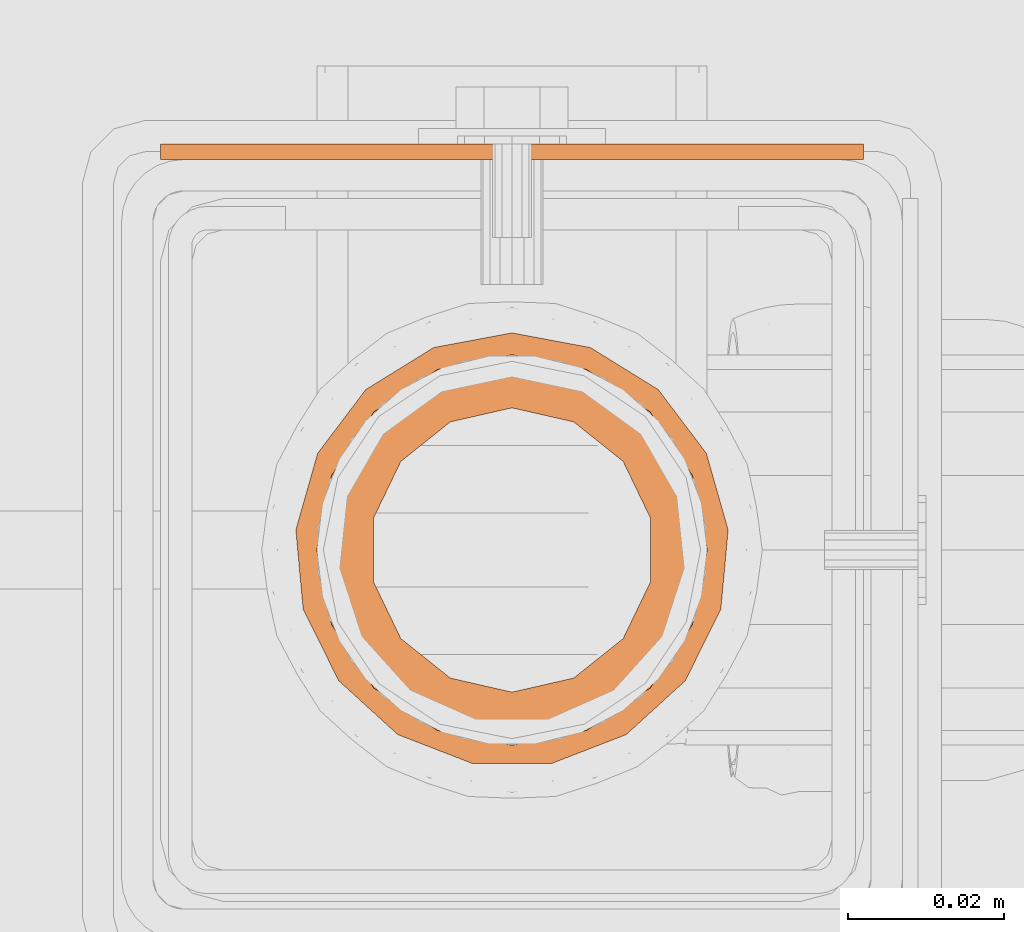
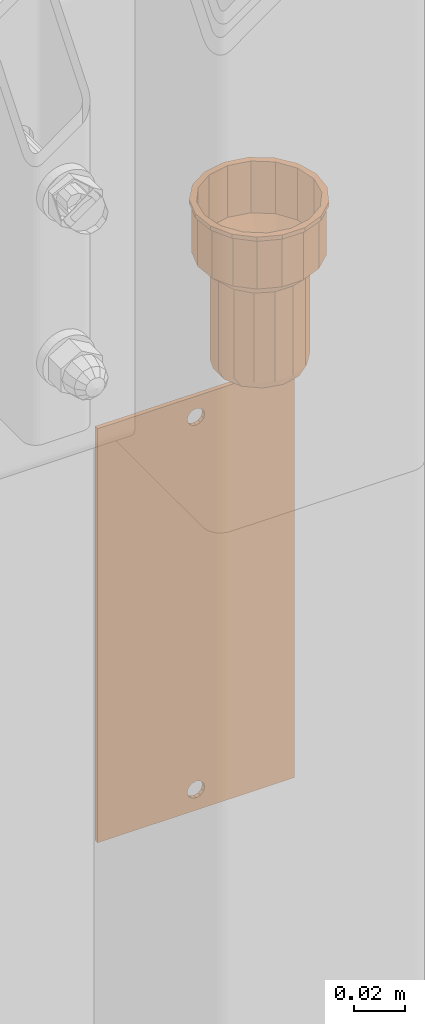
# One storey, part 83 of 162: 2 proxies.
"""IFC2X3 building model written with IfcOpenShell, lengths in millimetres."""

from ifc_helpers import new_model, entity, si_unit, converted_unit, origin_with_axes, place, context, project, spatial, faceted_brep, material, element, save


model = new_model("IFC2X3")

# Units and contexts
model_context = context("Model", 3, precision=1e-09, world=origin_with_axes())
ifc_project = project(units=[si_unit("LENGTHUNIT", "METRE", prefix="MILLI"), si_unit("AREAUNIT", "SQUARE_METRE"), si_unit("VOLUMEUNIT", "CUBIC_METRE"), converted_unit("PLANEANGLEUNIT", "DEGREE", entity("IfcPlaneAngleMeasure", 0.01745329), si_unit("PLANEANGLEUNIT", "RADIAN"), dimensions=[0, 0, 0, 0, 0, 0, 0])], contexts=[model_context])

# Site, building, storey
site_placement = place(None, origin_with_axes())
site = spatial("IfcSite", under=ifc_project, at=site_placement, Name="Hermannstra?e 1a, 60318 Frankfurt", CompositionType="ELEMENT")
building_placement = place(site_placement, origin_with_axes())
building = spatial("IfcBuilding", under=site, at=building_placement, Name="Struktur 1", CompositionType="ELEMENT")
storey_placement = place(building_placement, origin_with_axes())
storey = spatial("IfcBuildingStorey", under=building, at=storey_placement, Name="Default Storey", CompositionType="ELEMENT", Elevation=0.0)

# Proxies
ifc_material_1 = material(Name="Kein")
proxy_1_placement = place(None, origin_with_axes())
element("IfcBuildingElementProxy", 1, at=proxy_1_placement, inside=storey, material=ifc_material_1, ObjectType="-", context=model_context, shape_type="Brep", body=[
    faceted_brep([(5469.30836482, 1582.609373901, 7340.0), (5469.30836482, 1580.609373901, 7340.0), (5469.844397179, 1580.609373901, 7337.9995), (5469.844397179, 1582.609373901, 7337.9995), (5471.30886482, 1580.609373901, 7336.535032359), (5471.30886482, 1582.609373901, 7336.535032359), (5469.844397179, 1582.609373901, 7342.0005), (5469.844397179, 1580.609373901, 7342.0005), (5471.30886482, 1582.609373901, 7343.464967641), (5471.30886482, 1580.609373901, 7343.464967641), (5428.30936482, 1580.609373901, 7530.0), (5428.30936482, 1580.609373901, 7330.0), (5518.30936482, 1580.609373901, 7330.0), (5518.30936482, 1580.609373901, 7530.0), (5471.30886482, 1580.609373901, 7516.535032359), (5469.844397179, 1580.609373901, 7517.9995), (5469.30836482, 1580.609373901, 7520.0), (5469.844397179, 1580.609373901, 7522.0005), (5471.30886482, 1580.609373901, 7523.464967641), (5473.30936482, 1580.609373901, 7524.001), (5475.30986482, 1580.609373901, 7523.464967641), (5476.77433246, 1580.609373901, 7522.0005), (5477.31036482, 1580.609373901, 7520.0), (5476.77433246, 1580.609373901, 7517.9995), (5475.30986482, 1580.609373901, 7516.535032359), (5473.30936482, 1580.609373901, 7515.999), (5473.30936482, 1580.609373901, 7344.001), (5475.30986482, 1580.609373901, 7343.464967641), (5476.77433246, 1580.609373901, 7342.0005), (5477.31036482, 1580.609373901, 7340.0), (5476.77433246, 1580.609373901, 7337.9995), (5475.30986482, 1580.609373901, 7336.535032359), (5473.30936482, 1580.609373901, 7335.999), (5469.844397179, 1582.609373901, 7517.9995), (5471.30886482, 1582.609373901, 7516.535032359), (5428.30936482, 1582.609373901, 7530.0), (5518.30936482, 1582.609373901, 7530.0), (5518.30936482, 1582.609373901, 7330.0), (5428.30936482, 1582.609373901, 7330.0), (5473.30936482, 1582.609373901, 7335.999), (5475.30986482, 1582.609373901, 7336.535032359), (5476.77433246, 1582.609373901, 7337.9995), (5477.31036482, 1582.609373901, 7340.0), (5476.77433246, 1582.609373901, 7342.0005), (5475.30986482, 1582.609373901, 7343.464967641), (5473.30936482, 1582.609373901, 7344.001), (5476.77433246, 1582.609373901, 7517.9995), (5477.31036482, 1582.609373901, 7520.0), (5476.77433246, 1582.609373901, 7522.0005), (5475.30986482, 1582.609373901, 7523.464967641), (5473.30936482, 1582.609373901, 7524.001), (5471.30886482, 1582.609373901, 7523.464967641), (5469.844397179, 1582.609373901, 7522.0005), (5469.30836482, 1582.609373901, 7520.0), (5473.30936482, 1582.609373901, 7515.999), (5475.30986482, 1582.609373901, 7516.535032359)], [[[0, 1, 2, 3]], [[3, 2, 4, 5]], [[1, 0, 6, 7]], [[7, 6, 8, 9]], [[10, 11, 12, 13], [14, 15, 16, 17, 18, 19, 20, 21, 22, 23, 24, 25], [1, 7, 9, 26, 27, 28, 29, 30, 31, 32, 4, 2]], [[33, 15, 14, 34]], [[35, 36, 37, 38], [0, 3, 5, 39, 40, 41, 42, 43, 44, 45, 8, 6], [46, 47, 48, 49, 50, 51, 52, 53, 33, 34, 54, 55]], [[15, 33, 53, 16]], [[5, 4, 32, 39]], [[9, 8, 45, 26]], [[16, 53, 52, 17]], [[39, 32, 31, 40]], [[34, 14, 25, 54]], [[17, 52, 51, 18]], [[11, 10, 35, 38]], [[40, 31, 30, 41]], [[26, 45, 44, 27]], [[18, 51, 50, 19]], [[38, 37, 12, 11]], [[41, 30, 29, 42]], [[28, 43, 42, 29]], [[27, 44, 43, 28]], [[54, 25, 24, 55]], [[10, 13, 36, 35]], [[13, 12, 37, 36]], [[19, 50, 49, 20]], [[55, 24, 23, 46]], [[20, 49, 48, 21]], [[46, 23, 22, 47]], [[21, 48, 47, 22]]]),
])
ifc_material_2 = material(Name="Kunststoff")
proxy_2_placement = place(None, origin_with_axes())
element("IfcBuildingElementProxy", 2, at=proxy_2_placement, inside=storey, material=ifc_material_2, ObjectType="-", context=model_context, shape_type="Brep", body=[
    faceted_brep([(5465.038594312, 1547.783805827, 7577.545584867), (5458.446464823, 1543.991989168, 7581.045584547), (5465.17463005, 1548.88028734, 7581.045584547), (5458.405951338, 1542.494449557, 7577.545584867), (5458.446472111, 1543.991982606, 7624.000001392), (5465.174634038, 1548.880278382, 7624.000001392), (5473.30936482, 1549.671555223, 7577.545584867), (5481.580135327, 1547.783805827, 7577.545584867), (5488.212778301, 1542.494449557, 7577.545584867), (5491.893617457, 1534.851108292, 7577.545584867), (5491.893617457, 1526.36763951, 7577.545584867), (5488.212778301, 1518.724298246, 7577.545584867), (5481.580135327, 1513.434941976, 7577.545584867), (5473.30936482, 1511.54719258, 7577.545584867), (5465.038594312, 1513.434941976, 7577.545584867), (5458.405951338, 1518.724298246, 7577.545584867), (5454.725112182, 1526.36763951, 7577.545584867), (5454.725112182, 1534.851108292, 7577.545584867), (5473.30936482, 1548.809369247, 7577.545585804), (5465.412682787, 1547.007003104, 7577.545585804), (5459.080035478, 1541.956885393, 7577.545585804), (5455.565681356, 1534.659253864, 7577.545585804), (5455.565681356, 1526.559493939, 7577.545585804), (5459.080035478, 1519.26186241, 7577.545585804), (5465.412682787, 1514.211744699, 7577.545585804), (5473.30936482, 1512.409378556, 7577.545585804), (5481.206046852, 1514.211744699, 7577.545585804), (5487.538694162, 1519.26186241, 7577.545585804), (5491.053048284, 1526.559493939, 7577.545585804), (5491.053048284, 1534.659253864, 7577.545585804), (5487.538694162, 1541.956885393, 7577.545585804), (5481.206046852, 1547.007003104, 7577.545585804), (5454.288230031, 1536.789715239, 7581.045584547), (5465.412682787, 1547.007003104, 7624.745585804), (5459.080035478, 1541.956885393, 7624.745585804), (5473.30936482, 1550.609368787, 7624.000001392), (5473.30936482, 1550.609378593, 7581.045584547), (5455.254318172, 1550.41481661, 7630.799996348), (5463.628086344, 1555.599634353, 7630.799996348), (5473.30936482, 1548.809369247, 7624.745585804), (5463.742277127, 1553.706366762, 7631.545580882), (5454.288239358, 1536.789712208, 7624.000001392), (5455.25432157, 1550.414812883, 7654.545585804), (5463.628088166, 1555.599629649, 7654.545585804), (5455.631691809, 1548.287046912, 7631.545580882), (5463.742277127, 1553.706366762, 7656.545585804), (5473.30936482, 1555.609378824, 7631.545580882), (5473.30936482, 1555.609378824, 7656.545585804), (5453.418922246, 1528.518804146, 7581.045584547), (5473.30936482, 1557.409373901, 7654.545585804), (5473.30936482, 1557.409378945, 7630.799996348), (5473.30936482, 1558.409366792, 7654.545585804), (5483.351880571, 1556.53209525, 7654.545585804), (5492.038098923, 1551.153816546, 7654.545585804), (5498.194897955, 1543.000897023, 7654.545585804), (5500.990767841, 1533.174433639, 7654.545585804), (5500.048110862, 1523.001544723, 7654.545585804), (5495.494238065, 1513.856135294, 7654.545585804), (5487.944175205, 1506.973343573, 7654.545585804), (5478.417600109, 1503.282728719, 7654.545585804), (5468.201129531, 1503.282728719, 7654.545585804), (5458.674554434, 1506.973343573, 7654.545585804), (5451.124491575, 1513.856135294, 7654.545585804), (5446.570618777, 1523.001544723, 7654.545585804), (5445.627961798, 1533.174433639, 7654.545585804), (5448.423831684, 1543.000897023, 7654.545585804), (5454.580630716, 1551.153816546, 7654.545585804), (5463.266849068, 1556.53209525, 7654.545585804), (5482.990641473, 1555.599629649, 7654.545585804), (5449.318988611, 1542.555161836, 7654.545585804), (5446.623688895, 1533.082165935, 7654.545585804), (5447.532437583, 1523.275205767, 7654.545585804), (5451.922503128, 1514.458765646, 7654.545585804), (5459.200982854, 1507.823554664, 7654.545585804), (5468.384877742, 1504.26569483, 7654.545585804), (5478.233851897, 1504.26569483, 7654.545585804), (5487.417746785, 1507.823554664, 7654.545585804), (5494.696226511, 1514.458765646, 7654.545585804), (5499.086292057, 1523.275205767, 7654.545585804), (5499.995040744, 1533.082165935, 7654.545585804), (5497.299741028, 1542.555161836, 7654.545585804), (5491.364408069, 1550.414812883, 7654.545585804), (5481.444099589, 1548.88028734, 7581.045584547), (5492.038098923, 1551.153816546, 7656.545585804), (5483.351880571, 1556.53209525, 7656.545585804), (5473.30936482, 1558.409366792, 7656.545585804), (5463.266849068, 1556.53209525, 7656.545585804), (5454.580630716, 1551.153816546, 7656.545585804), (5448.423831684, 1543.000897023, 7656.545585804), (5445.627961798, 1533.174433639, 7656.545585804), (5446.570618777, 1523.001544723, 7656.545585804), (5451.124491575, 1513.856135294, 7656.545585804), (5458.674554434, 1506.973343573, 7656.545585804), (5468.201129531, 1503.282728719, 7656.545585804), (5478.417600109, 1503.282728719, 7656.545585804), (5487.944175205, 1506.973343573, 7656.545585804), (5495.494238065, 1513.856135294, 7656.545585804), (5500.048110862, 1523.001544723, 7656.545585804), (5500.990767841, 1533.174433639, 7656.545585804), (5498.194897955, 1543.000897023, 7656.545585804), (5482.876452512, 1553.706366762, 7656.545585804), (5490.98703783, 1548.287046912, 7656.545585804), (5496.40635768, 1540.176461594, 7656.545585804), (5498.309369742, 1530.609373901, 7656.545585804), (5496.40635768, 1521.042286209, 7656.545585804), (5490.98703783, 1512.931700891, 7656.545585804), (5482.876452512, 1507.512381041, 7656.545585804), (5473.30936482, 1505.609368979, 7656.545585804), (5463.742277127, 1507.512381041, 7656.545585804), (5455.631691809, 1512.931700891, 7656.545585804), (5450.212371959, 1521.042286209, 7656.545585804), (5448.309359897, 1530.609373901, 7656.545585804), (5450.212371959, 1540.176461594, 7656.545585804), (5455.631691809, 1548.287046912, 7656.545585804), (5449.318984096, 1542.555164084, 7630.799996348), (5455.565681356, 1534.659253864, 7624.745585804), (5453.418931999, 1528.518805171, 7624.000001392), (5481.444095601, 1548.880278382, 7624.000001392), (5481.206046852, 1547.007003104, 7624.745585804), (5482.876452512, 1553.706366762, 7631.545580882), (5450.212371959, 1540.176461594, 7631.545580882), (5455.988852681, 1520.609371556, 7581.045584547), (5482.990643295, 1555.599634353, 7630.799996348), (5488.172264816, 1543.991989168, 7581.045584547), (5446.623683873, 1533.0821664, 7630.799996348), (5455.565681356, 1526.559493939, 7624.745585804), (5455.988861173, 1520.609376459, 7624.000001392), (5488.172257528, 1543.991982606, 7624.000001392), (5487.538694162, 1541.956885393, 7624.745585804), (5490.98703783, 1548.287046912, 7631.545580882), (5448.309359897, 1530.609373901, 7631.545580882), (5461.553657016, 1514.429030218, 7581.045584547), (5447.532432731, 1523.275204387, 7630.799996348), (5492.330499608, 1536.789715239, 7581.045584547), (5491.364411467, 1550.41481661, 7630.799996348), (5492.330490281, 1536.789712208, 7624.000001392), (5459.080035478, 1519.26186241, 7624.745585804), (5461.55366278, 1514.429038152, 7624.000001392), (5497.299745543, 1542.555164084, 7630.799996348), (5491.053048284, 1534.659253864, 7624.745585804), (5496.40635768, 1540.176461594, 7631.545580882), (5450.212371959, 1521.042286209, 7631.545580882), (5469.151130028, 1511.046417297, 7581.045584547), (5451.922499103, 1514.458762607, 7630.799996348), (5493.199807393, 1528.518804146, 7581.045584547), (5493.19979764, 1528.518805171, 7624.000001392), (5499.995045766, 1533.0821664, 7630.799996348), (5465.412682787, 1514.211744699, 7624.745585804), (5469.151132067, 1511.04642689, 7624.000001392), (5477.467599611, 1511.046417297, 7581.045584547), (5485.065072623, 1514.429030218, 7581.045584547), (5490.629876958, 1520.609371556, 7581.045584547), (5491.053048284, 1526.559493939, 7624.745585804), (5498.309369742, 1530.609373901, 7631.545580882), (5455.631691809, 1512.931700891, 7631.545580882), (5459.200980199, 1507.823550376, 7630.799996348), (5490.629868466, 1520.609376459, 7624.000001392), (5499.086296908, 1523.275204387, 7630.799996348), (5487.538694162, 1519.26186241, 7624.745585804), (5481.206046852, 1514.211744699, 7624.745585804), (5473.30936482, 1512.409378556, 7624.745585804), (5477.467597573, 1511.04642689, 7624.000001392), (5485.065066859, 1514.429038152, 7624.000001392), (5496.40635768, 1521.042286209, 7631.545580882), (5463.742277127, 1507.512381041, 7631.545580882), (5468.384876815, 1504.265689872, 7630.799996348), (5494.696230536, 1514.458762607, 7630.799996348), (5490.98703783, 1512.931700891, 7631.545580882), (5482.876452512, 1507.512381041, 7631.545580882), (5478.233852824, 1504.265689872, 7630.799996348), (5487.41774944, 1507.823550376, 7630.799996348), (5473.30936482, 1505.609368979, 7631.545580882)], [[[0, 1, 2]], [[0, 3, 1]], [[2, 1, 4, 5]], [[2, 6, 0]], [[0, 6, 7, 8, 9, 10, 11, 12, 13, 14, 15, 16, 17, 3], [18, 19, 20, 21, 22, 23, 24, 25, 26, 27, 28, 29, 30, 31]], [[3, 32, 1]], [[19, 33, 34, 20]], [[2, 5, 35, 36]], [[5, 37, 38]], [[2, 36, 6]], [[33, 19, 18, 39]], [[40, 33, 39]], [[1, 32, 41, 4]], [[5, 4, 37]], [[38, 37, 42, 43]], [[3, 17, 32]], [[40, 44, 33]], [[45, 40, 46, 47]], [[17, 48, 32]], [[38, 35, 5]], [[43, 49, 50, 38]], [[51, 52, 53, 54, 55, 56, 57, 58, 59, 60, 61, 62, 63, 64, 65, 66, 67], [68, 49, 43, 42, 69, 70, 71, 72, 73, 74, 75, 76, 77, 78, 79, 80, 81]], [[36, 82, 6]], [[46, 40, 39]], [[83, 84, 85, 86, 87, 88, 89, 90, 91, 92, 93, 94, 95, 96, 97, 98, 99], [47, 100, 101, 102, 103, 104, 105, 106, 107, 108, 109, 110, 111, 112, 113, 45]], [[4, 114, 37]], [[86, 85, 51, 67]], [[20, 34, 115, 21]], [[44, 34, 33]], [[40, 45, 113, 44]], [[17, 16, 48]], [[32, 48, 116, 41]], [[36, 35, 117, 82]], [[38, 50, 35]], [[7, 6, 82]], [[39, 18, 31, 118]], [[46, 39, 119]], [[47, 46, 119, 100]], [[4, 41, 114]], [[37, 114, 69, 42]], [[67, 66, 87, 86]], [[44, 120, 34]], [[16, 121, 48]], [[50, 122, 35]], [[49, 68, 122, 50]], [[85, 84, 52, 51]], [[7, 82, 123]], [[119, 39, 118]], [[41, 124, 114]], [[21, 115, 125, 22]], [[120, 115, 34]], [[44, 113, 112, 120]], [[16, 15, 121]], [[48, 121, 126, 116]], [[41, 116, 124]], [[117, 127, 123, 82]], [[117, 35, 122]], [[8, 7, 123]], [[118, 31, 30, 128]], [[129, 119, 118]], [[100, 119, 129, 101]], [[114, 124, 70, 69]], [[66, 65, 88, 87]], [[120, 130, 115]], [[15, 131, 121]], [[116, 132, 124]], [[8, 123, 133]], [[127, 117, 134]], [[127, 135, 133, 123]], [[117, 122, 134]], [[68, 81, 134, 122]], [[84, 83, 53, 52]], [[129, 118, 128]], [[22, 125, 136, 23]], [[130, 125, 115]], [[120, 112, 111, 130]], [[15, 14, 131]], [[121, 131, 137, 126]], [[116, 126, 132]], [[124, 132, 71, 70]], [[9, 8, 133]], [[127, 134, 138]], [[135, 127, 138]], [[128, 30, 29, 139]], [[140, 129, 128]], [[101, 129, 140, 102]], [[65, 64, 89, 88]], [[130, 141, 125]], [[14, 142, 131]], [[126, 143, 132]], [[9, 133, 144]], [[135, 145, 144, 133]], [[138, 134, 81, 80]], [[135, 138, 146]], [[83, 99, 54, 53]], [[140, 128, 139]], [[23, 136, 147, 24]], [[141, 136, 125]], [[130, 111, 110, 141]], [[14, 13, 142]], [[131, 142, 148, 137]], [[126, 137, 143]], [[132, 143, 72, 71]], [[13, 12, 149]], [[12, 11, 150]], [[11, 10, 151]], [[10, 9, 144]], [[145, 135, 146]], [[80, 79, 146, 138]], [[139, 29, 28, 152]], [[153, 140, 139]], [[102, 140, 153, 103]], [[64, 63, 90, 89]], [[141, 154, 136]], [[13, 149, 142]], [[137, 155, 143]], [[12, 150, 149]], [[11, 151, 150]], [[10, 144, 151]], [[145, 156, 151, 144]], [[145, 146, 157]], [[79, 78, 157, 146]], [[99, 98, 55, 54]], [[153, 139, 152]], [[27, 158, 152, 28]], [[26, 159, 158, 27]], [[25, 160, 159, 26]], [[24, 147, 160, 25]], [[154, 147, 136]], [[141, 110, 109, 154]], [[142, 149, 161, 148]], [[137, 148, 155]], [[143, 155, 73, 72]], [[149, 150, 162, 161]], [[150, 151, 156, 162]], [[156, 145, 157]], [[163, 153, 152]], [[103, 153, 163, 104]], [[63, 62, 91, 90]], [[154, 164, 147]], [[148, 165, 155]], [[156, 157, 166]], [[78, 77, 166, 157]], [[98, 97, 56, 55]], [[163, 152, 158]], [[167, 158, 159]], [[168, 159, 160]], [[164, 160, 147]], [[154, 109, 108, 164]], [[148, 161, 169, 165]], [[155, 165, 74, 73]], [[161, 162, 170]], [[162, 156, 166]], [[167, 163, 158]], [[104, 163, 167, 105]], [[62, 61, 92, 91]], [[168, 167, 159]], [[171, 168, 160]], [[164, 171, 160]], [[161, 170, 169]], [[162, 166, 170]], [[77, 76, 170, 166]], [[97, 96, 57, 56]], [[168, 106, 105, 167]], [[171, 107, 106, 168]], [[164, 108, 107, 171]], [[165, 169, 75, 74]], [[169, 170, 76, 75]], [[61, 60, 93, 92]], [[96, 95, 58, 57]], [[60, 59, 94, 93]], [[95, 94, 59, 58]]]),
])

save(model, "model.ifc")
